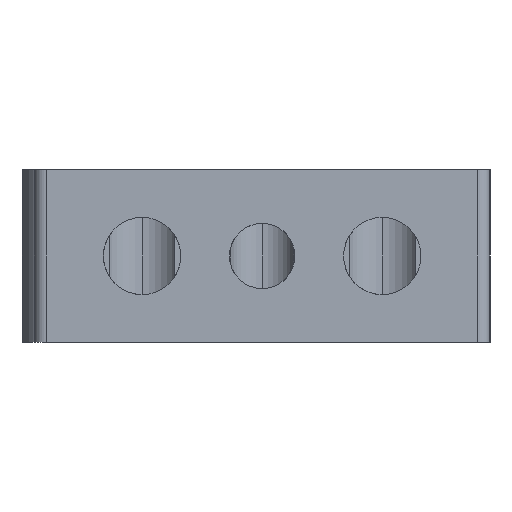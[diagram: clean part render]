
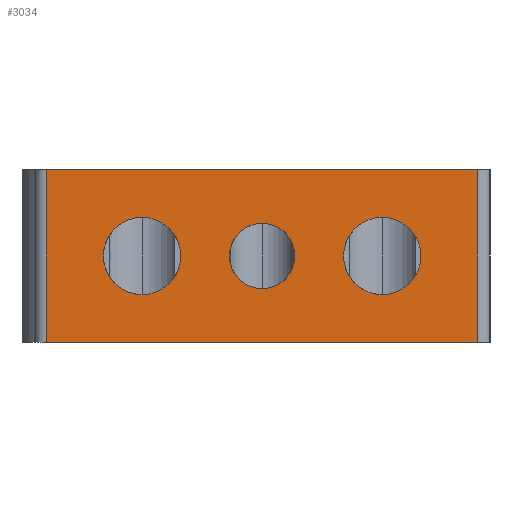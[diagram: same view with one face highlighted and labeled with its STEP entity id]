
A CAD part, left-side view. The second image highlights one B-rep face of the part: STEP entity #3034.
In plain terms, the highlighted planar face has unit normal (-1, 0, 0).
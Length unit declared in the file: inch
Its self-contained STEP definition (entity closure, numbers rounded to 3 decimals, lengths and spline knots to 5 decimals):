
#103 = ORIENTED_EDGE ( 'NONE', *, *, #6603, .F. ) ;
#166 = DIRECTION ( 'NONE',  ( 0., 0., 1. ) ) ;
#355 = DIRECTION ( 'NONE',  ( 1., 0., 0. ) ) ;
#452 = AXIS2_PLACEMENT_3D ( 'NONE', #4421, #3750, #166 ) ;
#574 = CARTESIAN_POINT ( 'NONE',  ( 0., 0., -0.70866 ) ) ;
#628 = CARTESIAN_POINT ( 'NONE',  ( 0., 1.42587, -0.51283 ) ) ;
#746 = ORIENTED_EDGE ( 'NONE', *, *, #5180, .F. ) ;
#900 = CARTESIAN_POINT ( 'NONE',  ( 0., 0.44162, -0.35433 ) ) ;
#916 = VERTEX_POINT ( 'NONE', #6387 ) ;
#999 = AXIS2_PLACEMENT_3D ( 'NONE', #900, #3886, #6766 ) ;
#1266 = CARTESIAN_POINT ( 'NONE',  ( 0., 1.818, -0.70866 ) ) ;
#1358 = EDGE_LOOP ( 'NONE', ( #5559, #8926, #103, #5232 ) ) ;
#1499 = CARTESIAN_POINT ( 'NONE',  ( 0., 0.93375, -0.35433 ) ) ;
#1625 = CIRCLE ( 'NONE', #999, 0.1585 ) ;
#1630 = CIRCLE ( 'NONE', #5688, 0.1585 ) ;
#1936 = VERTEX_POINT ( 'NONE', #6000 ) ;
#1988 = VECTOR ( 'NONE', #2588, 39.37008 ) ;
#2054 = DIRECTION ( 'NONE',  ( 0., 0., 1. ) ) ;
#2336 = DIRECTION ( 'NONE',  ( -1., 0., 0. ) ) ;
#2347 = CARTESIAN_POINT ( 'NONE',  ( 0., 0.93375, -0.48819 ) ) ;
#2445 = EDGE_CURVE ( 'NONE', #5623, #5936, #3385, .T. ) ;
#2531 = DIRECTION ( 'NONE',  ( 0., 0., -1. ) ) ;
#2540 = ORIENTED_EDGE ( 'NONE', *, *, #3114, .T. ) ;
#2588 = DIRECTION ( 'NONE',  ( 0., 0., 1. ) ) ;
#2618 = AXIS2_PLACEMENT_3D ( 'NONE', #4989, #7345, #2054 ) ;
#2661 = CARTESIAN_POINT ( 'NONE',  ( 0., 0.44162, -0.35433 ) ) ;
#2854 = ORIENTED_EDGE ( 'NONE', *, *, #5427, .T. ) ;
#3034 = ADVANCED_FACE ( 'NONE', ( #8206, #8345, #5209, #4519 ), #6033, .T. ) ;
#3035 = VERTEX_POINT ( 'NONE', #9672 ) ;
#3114 = EDGE_CURVE ( 'NONE', #3035, #6538, #5152, .T. ) ;
#3332 = LINE ( 'NONE', #9310, #1988 ) ;
#3385 = CIRCLE ( 'NONE', #4161, 0.1585 ) ;
#3404 = DIRECTION ( 'NONE',  ( 0., 0., -1. ) ) ;
#3466 = DIRECTION ( 'NONE',  ( 0., -1., 0. ) ) ;
#3533 = CARTESIAN_POINT ( 'NONE',  ( 0., 0.44162, -0.19583 ) ) ;
#3691 = VECTOR ( 'NONE', #8130, 39.37008 ) ;
#3750 = DIRECTION ( 'NONE',  ( -1., 0., 0. ) ) ;
#3886 = DIRECTION ( 'NONE',  ( 1., 0., 0. ) ) ;
#4001 = CARTESIAN_POINT ( 'NONE',  ( 0., 1.42587, -0.35433 ) ) ;
#4161 = AXIS2_PLACEMENT_3D ( 'NONE', #2661, #5642, #3404 ) ;
#4421 = CARTESIAN_POINT ( 'NONE',  ( 0., 0., -0.70866 ) ) ;
#4519 = FACE_BOUND ( 'NONE', #4683, .T. ) ;
#4591 = EDGE_CURVE ( 'NONE', #916, #4745, #5271, .T. ) ;
#4683 = EDGE_LOOP ( 'NONE', ( #2540, #2854 ) ) ;
#4745 = VERTEX_POINT ( 'NONE', #2347 ) ;
#4792 = AXIS2_PLACEMENT_3D ( 'NONE', #1499, #2336, #8956 ) ;
#4854 = CARTESIAN_POINT ( 'NONE',  ( 0., 0.05, 0. ) ) ;
#4936 = EDGE_CURVE ( 'NONE', #1936, #8663, #3332, .T. ) ;
#4989 = CARTESIAN_POINT ( 'NONE',  ( 0., 0.93375, -0.35433 ) ) ;
#5152 = CIRCLE ( 'NONE', #5311, 0.1585 ) ;
#5180 = EDGE_CURVE ( 'NONE', #4745, #916, #6972, .T. ) ;
#5193 = VECTOR ( 'NONE', #3466, 39.37008 ) ;
#5209 = FACE_BOUND ( 'NONE', #9441, .T. ) ;
#5229 = CARTESIAN_POINT ( 'NONE',  ( 0., 0., 0. ) ) ;
#5232 = ORIENTED_EDGE ( 'NONE', *, *, #6089, .T. ) ;
#5251 = CARTESIAN_POINT ( 'NONE',  ( 0., 0.44162, -0.51283 ) ) ;
#5271 = CIRCLE ( 'NONE', #2618, 0.13386 ) ;
#5311 = AXIS2_PLACEMENT_3D ( 'NONE', #5589, #355, #5451 ) ;
#5427 = EDGE_CURVE ( 'NONE', #6538, #3035, #1630, .T. ) ;
#5451 = DIRECTION ( 'NONE',  ( 0., 0., -1. ) ) ;
#5559 = ORIENTED_EDGE ( 'NONE', *, *, #9594, .T. ) ;
#5589 = CARTESIAN_POINT ( 'NONE',  ( 0., 1.42587, -0.35433 ) ) ;
#5623 = VERTEX_POINT ( 'NONE', #5251 ) ;
#5642 = DIRECTION ( 'NONE',  ( 1., 0., 0. ) ) ;
#5688 = AXIS2_PLACEMENT_3D ( 'NONE', #4001, #6246, #2531 ) ;
#5755 = LINE ( 'NONE', #574, #5193 ) ;
#5936 = VERTEX_POINT ( 'NONE', #3533 ) ;
#5952 = ORIENTED_EDGE ( 'NONE', *, *, #4591, .F. ) ;
#6000 = CARTESIAN_POINT ( 'NONE',  ( 0., 0.05, -0.70866 ) ) ;
#6033 = PLANE ( 'NONE',  #452 ) ;
#6089 = EDGE_CURVE ( 'NONE', #8103, #9264, #9269, .T. ) ;
#6163 = DIRECTION ( 'NONE',  ( 0., 0., -1. ) ) ;
#6246 = DIRECTION ( 'NONE',  ( 1., 0., 0. ) ) ;
#6387 = CARTESIAN_POINT ( 'NONE',  ( 0., 0.93375, -0.22047 ) ) ;
#6486 = VECTOR ( 'NONE', #6163, 39.37008 ) ;
#6538 = VERTEX_POINT ( 'NONE', #628 ) ;
#6603 = EDGE_CURVE ( 'NONE', #8103, #8663, #8810, .T. ) ;
#6766 = DIRECTION ( 'NONE',  ( 0., 0., -1. ) ) ;
#6972 = CIRCLE ( 'NONE', #4792, 0.13386 ) ;
#7345 = DIRECTION ( 'NONE',  ( -1., 0., 0. ) ) ;
#7486 = EDGE_CURVE ( 'NONE', #5936, #5623, #1625, .T. ) ;
#7691 = CARTESIAN_POINT ( 'NONE',  ( 0., 1.818, -0.70866 ) ) ;
#8103 = VERTEX_POINT ( 'NONE', #8751 ) ;
#8130 = DIRECTION ( 'NONE',  ( 0., -1., 0. ) ) ;
#8134 = EDGE_LOOP ( 'NONE', ( #9306, #8884 ) ) ;
#8206 = FACE_BOUND ( 'NONE', #8134, .T. ) ;
#8345 = FACE_OUTER_BOUND ( 'NONE', #1358, .T. ) ;
#8663 = VERTEX_POINT ( 'NONE', #4854 ) ;
#8751 = CARTESIAN_POINT ( 'NONE',  ( 0., 1.818, 0. ) ) ;
#8810 = LINE ( 'NONE', #5229, #3691 ) ;
#8884 = ORIENTED_EDGE ( 'NONE', *, *, #2445, .T. ) ;
#8926 = ORIENTED_EDGE ( 'NONE', *, *, #4936, .T. ) ;
#8956 = DIRECTION ( 'NONE',  ( 0., 0., 1. ) ) ;
#9264 = VERTEX_POINT ( 'NONE', #1266 ) ;
#9269 = LINE ( 'NONE', #7691, #6486 ) ;
#9306 = ORIENTED_EDGE ( 'NONE', *, *, #7486, .T. ) ;
#9310 = CARTESIAN_POINT ( 'NONE',  ( 0., 0.05, -0.70866 ) ) ;
#9441 = EDGE_LOOP ( 'NONE', ( #5952, #746 ) ) ;
#9594 = EDGE_CURVE ( 'NONE', #9264, #1936, #5755, .T. ) ;
#9672 = CARTESIAN_POINT ( 'NONE',  ( 0., 1.42587, -0.19583 ) ) ;
